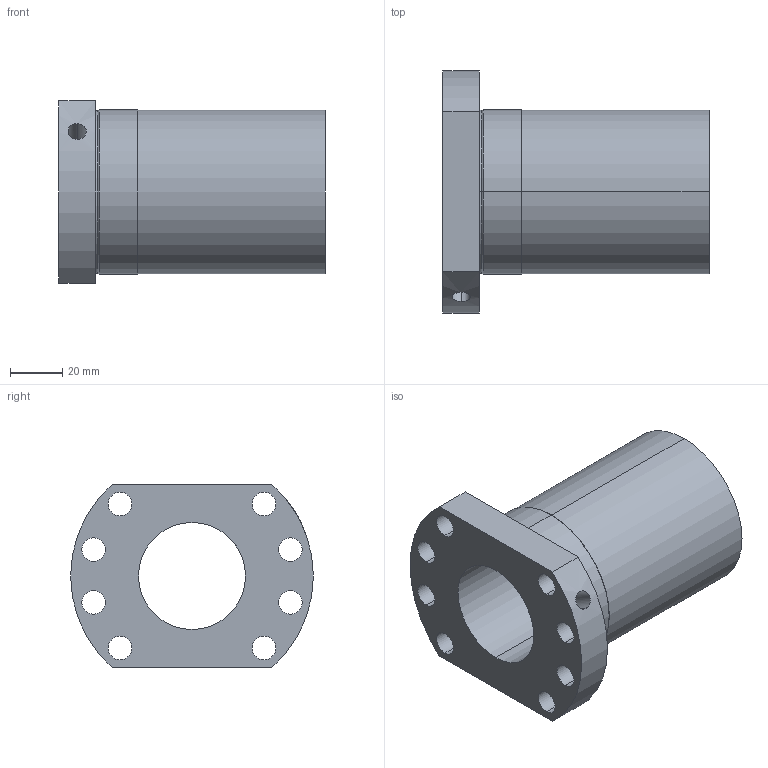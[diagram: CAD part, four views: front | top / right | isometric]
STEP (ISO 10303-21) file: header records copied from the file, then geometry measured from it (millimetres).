
FILE_DESCRIPTION (( 'STEP AP214' ), '1' );
FILE_NAME ('LLE4040-F.STEP', '2020-12-17T06:59:10', ( 'user' ), ( 'datathink' ), 'SwSTEP 2.0', 'SolidWorks 2013', '' );
FILE_SCHEMA (( 'AUTOMOTIVE_DESIGN' ));
Length unit declared in the file: millimetre
Products named in the file (1): LLE4040-F
Bounding box: 102 x 93 x 70 mm (x, y, z)
Volume: 210866.9 mm3; surface area: 46146.3 mm2
Topology: 1 solids, 1 shells, 36 faces, 92 edges, 60 vertices
Faces by surface type: cylinder 26, plane 6, torus 4
Entity records: 1340 total; most frequent: CARTESIAN_POINT 321, DIRECTION 218, ORIENTED_EDGE 184, AXIS2_PLACEMENT_3D 93, EDGE_CURVE 92, VERTEX_POINT 60, EDGE_LOOP 58, CIRCLE 56
